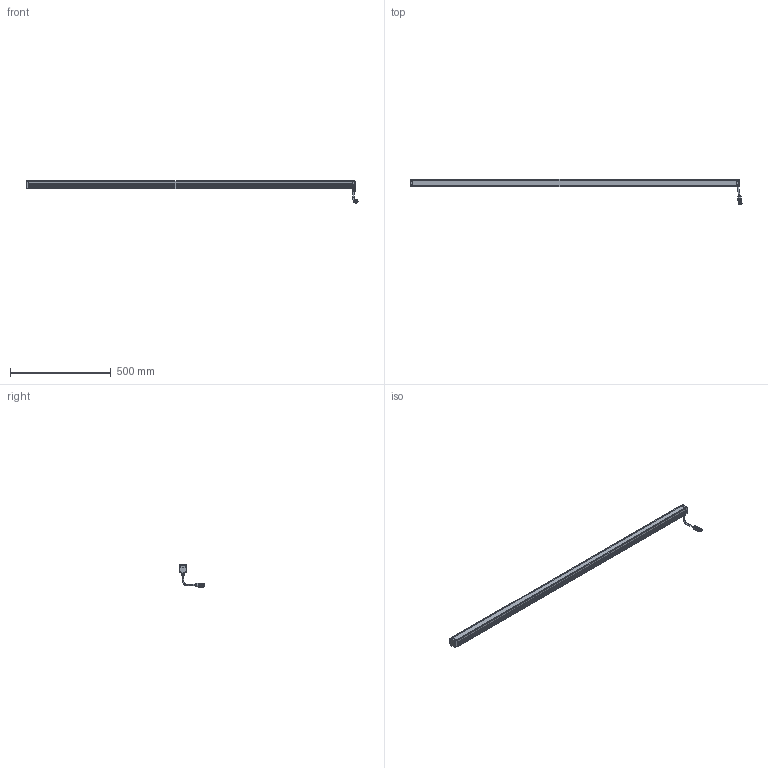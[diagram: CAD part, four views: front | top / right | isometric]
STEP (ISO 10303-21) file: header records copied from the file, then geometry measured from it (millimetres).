
FILE_DESCRIPTION(/* description */ (''),/* implementation_level */ '2;1');
FILE_NAME(/* name */ 'LBHP1600',/* time_stamp */ '2025-01-14T08:10:19+01:00',/* author */ (''),/* organization */ ('iiM AG'),/* preprocessor_version */ 'ST-DEVELOPER v16.7',/* originating_system */ 'DEX',/* authorisation */ $);
FILE_SCHEMA (('AUTOMOTIVE_DESIGN {1 0 10303 214 3 1 1}'));
Length unit declared in the file: millimetre
Products named in the file (1): step export
Bounding box: 1644.79 x 126.2 x 109.58 mm (x, y, z)
Volume: 2077695.4 mm3; surface area: 460503.7 mm2
Topology: 2 solids, 2 shells, 882 faces, 2334 edges, 1476 vertices
Faces by surface type: cylinder 368, plane 336, cone 138, sphere 21, torus 16, bspline 3
Full cylindrical faces by diameter (mm): 1.001 x12, 2.693 x4, 3 x2, 3.1 x4, 3.242 x6, 3.8 x8, 5.6 x8, 6 x8, 6.8 x2, 8.008 x1, 10 x1, 11 x1, 12.9 x2, 14 x1, 15.015 x1, 16.016 x1, 17.518 x1, 18.519 x3, 18.619 x2
Entity records: 32582 total; most frequent: CARTESIAN_POINT 6224, ORIENTED_EDGE 4118, DIRECTION 4048, EDGE_CURVE 2059, AXIS2_PLACEMENT_3D 1523, VERTEX_POINT 1383, FACE_BOUND 1100, EDGE_LOOP 1086
